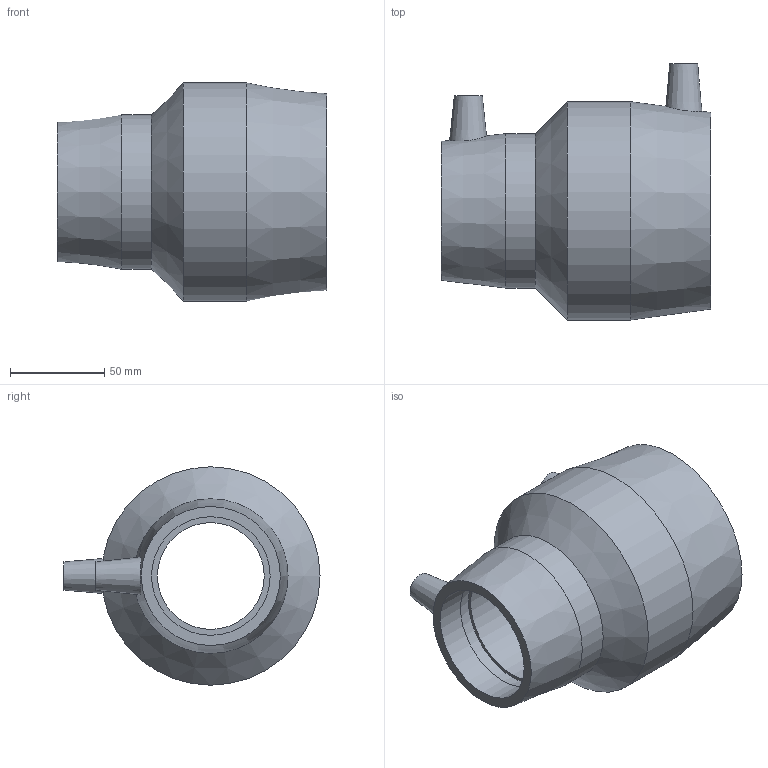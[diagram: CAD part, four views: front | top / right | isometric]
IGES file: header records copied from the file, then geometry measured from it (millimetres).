
Global section: file name: 491104090063.ipt; native system: Autodesk Inventor 2015; preprocessor: unknown; author: KIM; date: 20171106.093734; units: millimetre
Bounding box: 143 x 136 x 116 mm (x, y, z)
Volume: 450923.5 mm3; surface area: 92399 mm2
Topology: 1 solids, 1 shells, 31 faces, 72 edges, 51 vertices
Faces by surface type: plane 12, revolution 10, cone 5, cylinder 4
Full cylindrical faces by diameter (mm): 4 x2, 82 x1, 116 x1
